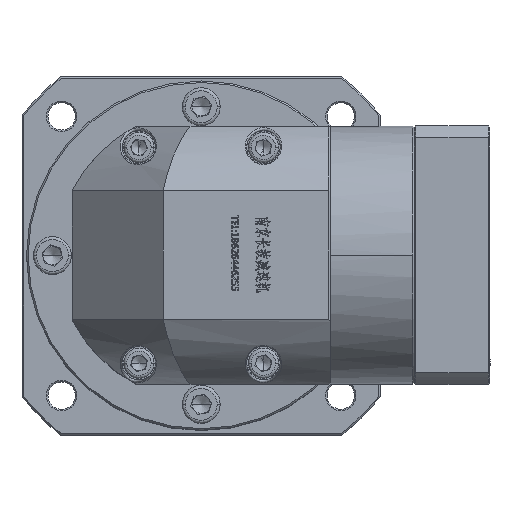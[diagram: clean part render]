
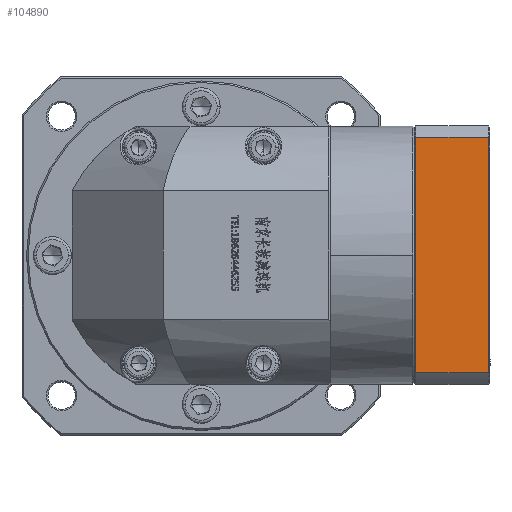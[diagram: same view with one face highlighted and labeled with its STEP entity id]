
A CAD part, top view. The second image highlights one B-rep face of the part: STEP entity #104890.
In plain terms, the highlighted planar face has unit normal (0, 0, 1).
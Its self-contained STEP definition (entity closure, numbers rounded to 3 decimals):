
#12335 = DIRECTION ( 'NONE',  ( 0., -1., 0. ) ) ;
#15897 = CARTESIAN_POINT ( 'NONE',  ( 106.38, 100.462, 60.743 ) ) ;
#18272 = DIRECTION ( 'NONE',  ( -1., 0., 0. ) ) ;
#19880 = PLANE ( 'NONE',  #140680 ) ;
#22456 = FACE_OUTER_BOUND ( 'NONE', #115853, .T. ) ;
#27196 = CARTESIAN_POINT ( 'NONE',  ( 82.38, 100.462, 60.743 ) ) ;
#31370 = DIRECTION ( 'NONE',  ( 0., -1., 0. ) ) ;
#31637 = ORIENTED_EDGE ( 'NONE', *, *, #112324, .F. ) ;
#33624 = CARTESIAN_POINT ( 'NONE',  ( 106.38, 104.232, 60.743 ) ) ;
#36112 = CARTESIAN_POINT ( 'NONE',  ( 82.38, 181.691, 60.743 ) ) ;
#37511 = EDGE_CURVE ( 'NONE', #88169, #102684, #53090, .T. ) ;
#49520 = CARTESIAN_POINT ( 'NONE',  ( 106.38, 181.691, 60.743 ) ) ;
#50763 = EDGE_CURVE ( 'NONE', #60087, #137949, #55409, .T. ) ;
#53090 = LINE ( 'NONE', #15897, #172312 ) ;
#55409 = LINE ( 'NONE', #27196, #114862 ) ;
#60087 = VERTEX_POINT ( 'NONE', #36112 ) ;
#64391 = DIRECTION ( 'NONE',  ( 0., 0., -1. ) ) ;
#65573 = VECTOR ( 'NONE', #74809, 1000. ) ;
#74809 = DIRECTION ( 'NONE',  ( 1., 0., 0. ) ) ;
#77507 = DIRECTION ( 'NONE',  ( 0., 1., 0. ) ) ;
#80614 = CARTESIAN_POINT ( 'NONE',  ( 82.38, 104.232, 60.743 ) ) ;
#88169 = VERTEX_POINT ( 'NONE', #49520 ) ;
#102684 = VERTEX_POINT ( 'NONE', #33624 ) ;
#104663 = ORIENTED_EDGE ( 'NONE', *, *, #37511, .F. ) ;
#104890 = ADVANCED_FACE ( 'NONE', ( #22456 ), #19880, .F. ) ;
#106034 = LINE ( 'NONE', #157397, #65573 ) ;
#109047 = ORIENTED_EDGE ( 'NONE', *, *, #139238, .F. ) ;
#112324 = EDGE_CURVE ( 'NONE', #60087, #88169, #106034, .T. ) ;
#114862 = VECTOR ( 'NONE', #12335, 1000. ) ;
#115853 = EDGE_LOOP ( 'NONE', ( #122156, #109047, #104663, #31637 ) ) ;
#122156 = ORIENTED_EDGE ( 'NONE', *, *, #50763, .T. ) ;
#132148 = CARTESIAN_POINT ( 'NONE',  ( 106.88, 100.462, 60.743 ) ) ;
#136534 = LINE ( 'NONE', #139461, #162192 ) ;
#137949 = VERTEX_POINT ( 'NONE', #80614 ) ;
#139238 = EDGE_CURVE ( 'NONE', #102684, #137949, #136534, .T. ) ;
#139461 = CARTESIAN_POINT ( 'NONE',  ( -82.381, 104.232, 60.743 ) ) ;
#140680 = AXIS2_PLACEMENT_3D ( 'NONE', #132148, #64391, #77507 ) ;
#157397 = CARTESIAN_POINT ( 'NONE',  ( 106.88, 181.691, 60.743 ) ) ;
#162192 = VECTOR ( 'NONE', #18272, 1000. ) ;
#172312 = VECTOR ( 'NONE', #31370, 1000. ) ;
